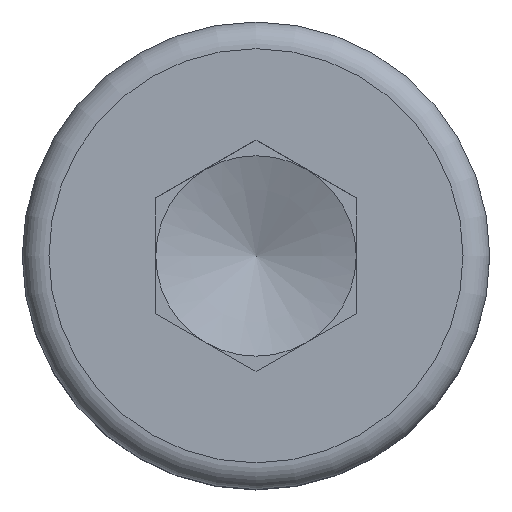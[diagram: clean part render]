
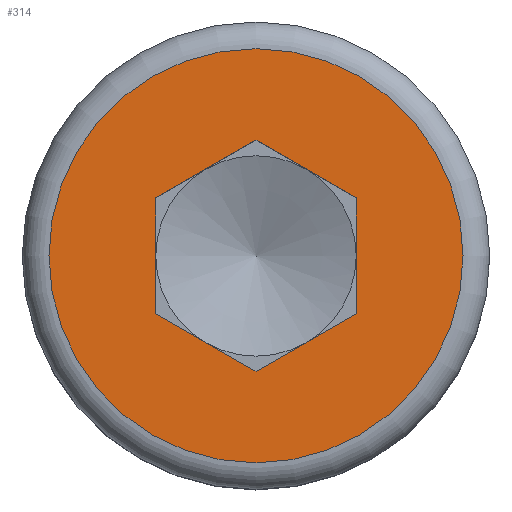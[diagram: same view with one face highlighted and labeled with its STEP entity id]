
A CAD part, top view. The second image highlights one B-rep face of the part: STEP entity #314.
In plain terms, the highlighted planar face has unit normal (0, 0, 1).
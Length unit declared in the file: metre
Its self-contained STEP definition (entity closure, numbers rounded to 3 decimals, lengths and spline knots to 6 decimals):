
#26=CIRCLE('',#356,0.0031);
#51=ORIENTED_EDGE('',*,*,#129,.T.);
#52=ORIENTED_EDGE('',*,*,#130,.T.);
#53=ORIENTED_EDGE('',*,*,#131,.T.);
#54=ORIENTED_EDGE('',*,*,#132,.T.);
#55=ORIENTED_EDGE('',*,*,#133,.T.);
#56=ORIENTED_EDGE('',*,*,#134,.T.);
#57=ORIENTED_EDGE('',*,*,#135,.T.);
#129=EDGE_CURVE('',#164,#164,#26,.T.);
#130=EDGE_CURVE('',#165,#166,#191,.T.);
#131=EDGE_CURVE('',#166,#167,#192,.T.);
#132=EDGE_CURVE('',#167,#168,#193,.T.);
#133=EDGE_CURVE('',#168,#169,#194,.T.);
#134=EDGE_CURVE('',#169,#170,#195,.T.);
#135=EDGE_CURVE('',#170,#165,#196,.T.);
#164=VERTEX_POINT('',#519);
#165=VERTEX_POINT('',#521);
#166=VERTEX_POINT('',#522);
#167=VERTEX_POINT('',#524);
#168=VERTEX_POINT('',#526);
#169=VERTEX_POINT('',#528);
#170=VERTEX_POINT('',#530);
#191=LINE('',#520,#215);
#192=LINE('',#523,#216);
#193=LINE('',#525,#217);
#194=LINE('',#527,#218);
#195=LINE('',#529,#219);
#196=LINE('',#531,#220);
#215=VECTOR('',#419,1.);
#216=VECTOR('',#420,1.);
#217=VECTOR('',#421,1.);
#218=VECTOR('',#422,1.);
#219=VECTOR('',#423,1.);
#220=VECTOR('',#424,1.);
#234=EDGE_LOOP('',(#51));
#235=EDGE_LOOP('',(#52,#53,#54,#55,#56,#57));
#266=FACE_BOUND('',#234,.T.);
#267=FACE_BOUND('',#235,.T.);
#299=PLANE('',#355);
#314=ADVANCED_FACE('',(#266,#267),#299,.F.);
#355=AXIS2_PLACEMENT_3D('',#517,#415,#416);
#356=AXIS2_PLACEMENT_3D('',#518,#417,#418);
#415=DIRECTION('',(0.,0.,-1.));
#416=DIRECTION('',(-1.,0.,0.));
#417=DIRECTION('',(0.,0.,1.));
#418=DIRECTION('',(1.,0.,0.));
#419=DIRECTION('',(0.,-1.,0.));
#420=DIRECTION('',(-0.866,-0.5,0.));
#421=DIRECTION('',(-0.866,0.5,0.));
#422=DIRECTION('',(0.,1.,0.));
#423=DIRECTION('',(0.866,0.5,0.));
#424=DIRECTION('',(0.866,-0.5,0.));
#517=CARTESIAN_POINT('',(-0.001102,0.,0.));
#518=CARTESIAN_POINT('',(0.,0.,0.));
#519=CARTESIAN_POINT('',(0.0031,0.,0.));
#520=CARTESIAN_POINT('',(0.0015,0.,0.));
#521=CARTESIAN_POINT('',(0.0015,0.000866,0.));
#522=CARTESIAN_POINT('',(0.0015,-0.000866,0.));
#523=CARTESIAN_POINT('',(0.000693,-0.001332,0.));
#524=CARTESIAN_POINT('',(0.,-0.001732,0.));
#525=CARTESIAN_POINT('',(-0.00075,-0.001299,0.));
#526=CARTESIAN_POINT('',(-0.0015,-0.000866,0.));
#527=CARTESIAN_POINT('',(-0.0015,0.,0.));
#528=CARTESIAN_POINT('',(-0.0015,0.000866,0.));
#529=CARTESIAN_POINT('',(-0.000735,0.001308,0.));
#530=CARTESIAN_POINT('',(0.,0.001732,0.));
#531=CARTESIAN_POINT('',(0.00075,0.001299,0.));
